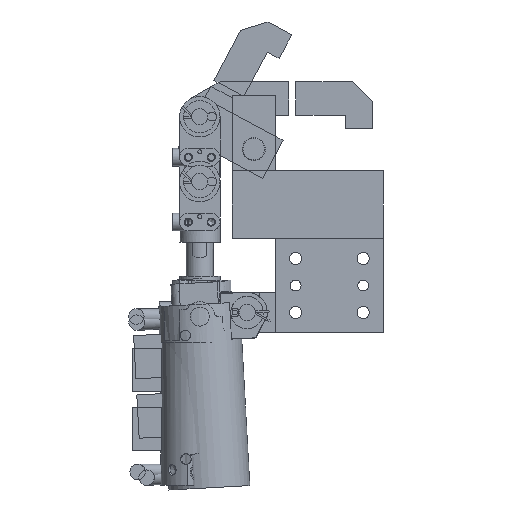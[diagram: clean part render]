
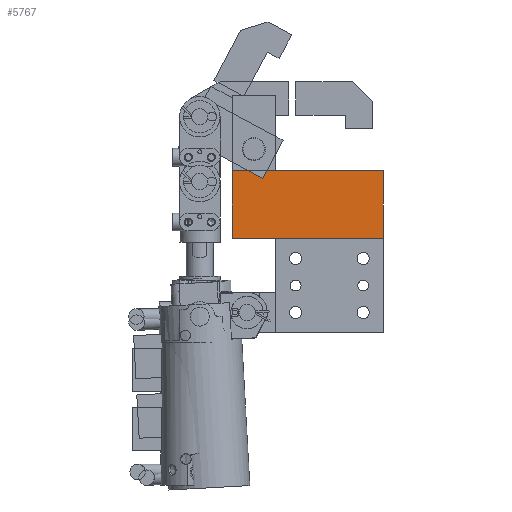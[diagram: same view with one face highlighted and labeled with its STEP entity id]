
A CAD part, front view. The second image highlights one B-rep face of the part: STEP entity #5767.
In plain terms, the highlighted planar face has unit normal (0, -1, 0) as drawn and (0, 0, 1) by its records, which use the part's own axes.
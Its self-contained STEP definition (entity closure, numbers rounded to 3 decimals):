
#5767=ADVANCED_FACE('',(#10618),#10617,.T.);
#10617=PLANE('',#15196);
#10618=FACE_OUTER_BOUND('',#15197,.T.);
#15193=CARTESIAN_POINT('',(-42.,55.,19.));
#15194=DIRECTION('',(0.,0.,1.));
#15195=DIRECTION('',(0.,-1.,0.));
#15196=AXIS2_PLACEMENT_3D('',#15193,#15194,#15195);
#15197=EDGE_LOOP('',(#17892,#17893,#17894,#17895));
#17892=ORIENTED_EDGE('',*,*,#25009,.F.);
#17893=ORIENTED_EDGE('',*,*,#25007,.F.);
#17894=ORIENTED_EDGE('',*,*,#25001,.F.);
#17895=ORIENTED_EDGE('',*,*,#25004,.F.);
#25001=EDGE_CURVE('',#34622,#34607,#34629,.T.);
#25004=EDGE_CURVE('',#34642,#34622,#34649,.T.);
#25007=EDGE_CURVE('',#34607,#34655,#34669,.T.);
#25009=EDGE_CURVE('',#34655,#34642,#34681,.T.);
#34607=VERTEX_POINT('',#39026);
#34622=VERTEX_POINT('',#39035);
#34629=LINE('',#39039,#39040);
#34642=VERTEX_POINT('',#39046);
#34649=LINE('',#39050,#39051);
#34655=VERTEX_POINT('',#39053);
#34669=LINE('',#39061,#39062);
#34681=LINE('',#39067,#39068);
#39026=CARTESIAN_POINT('',(-32.,0.,19.));
#39035=CARTESIAN_POINT('',(80.,0.,19.));
#39039=CARTESIAN_POINT('',(80.,0.,19.));
#39040=VECTOR('',#39041,112.);
#39041=DIRECTION('',(-1.,0.,0.));
#39046=CARTESIAN_POINT('',(80.,50.,19.));
#39050=CARTESIAN_POINT('',(80.,50.,19.));
#39051=VECTOR('',#39052,50.);
#39052=DIRECTION('',(0.,-1.,0.));
#39053=CARTESIAN_POINT('',(-32.,50.,19.));
#39061=CARTESIAN_POINT('',(-32.,0.,19.));
#39062=VECTOR('',#39063,50.);
#39063=DIRECTION('',(0.,1.,0.));
#39067=CARTESIAN_POINT('',(-32.,50.,19.));
#39068=VECTOR('',#39069,112.);
#39069=DIRECTION('',(1.,0.,0.));
